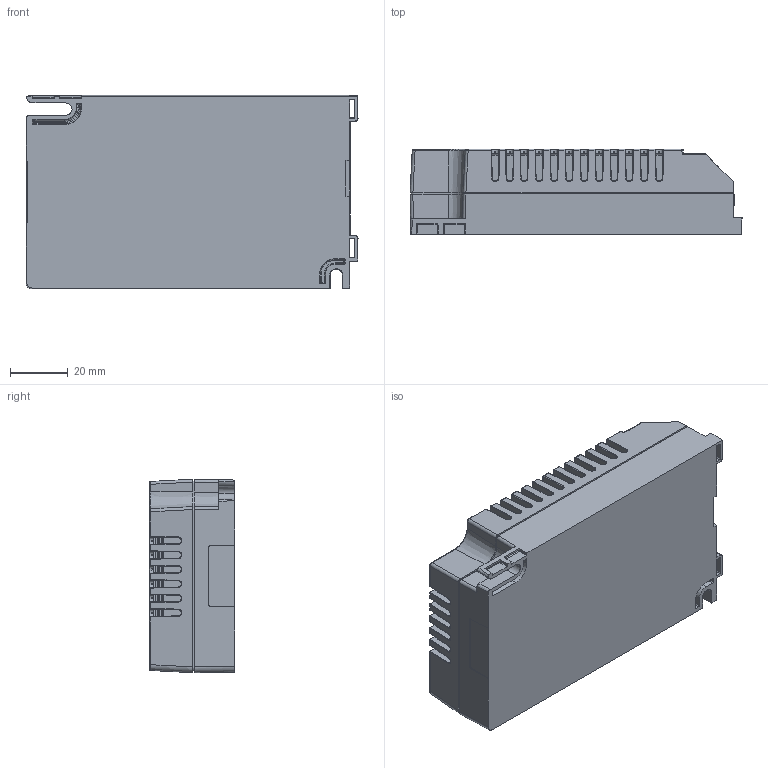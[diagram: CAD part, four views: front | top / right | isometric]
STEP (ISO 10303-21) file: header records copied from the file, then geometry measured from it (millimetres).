
FILE_DESCRIPTION (( 'STEP AP203' ), '1' );
FILE_NAME ('Assembly.STEP', '2018-04-17T05:16:42', ( '' ), ( '' ), 'SwSTEP 2.0', 'SolidWorks 2014', '' );
FILE_SCHEMA (( 'CONFIG_CONTROL_DESIGN' ));
Length unit declared in the file: millimetre
Products named in the file (8): 35-45 kp; PCB; 4n; 3n; pcb; Assembly; D007803; D007802
Assembly tree (7 placements, depth 3):
  Assembly
    35-45 kp
      D007803
      D007802
    pcb
      PCB
      4n
      3n
Bounding box: 115 x 29.5 x 67.03 mm (x, y, z)
Volume: 49953.7 mm3; surface area: 68277.6 mm2
Topology: 5 solids, 7 shells, 1911 faces, 5007 edges, 3002 vertices
Faces by surface type: cylinder 794, plane 676, bspline 328, sphere 67, cone 32, torus 14
Entity records: 66437 total; most frequent: CARTESIAN_POINT 23202, ORIENTED_EDGE 9860, DIRECTION 7863, EDGE_CURVE 4930, VERTEX_POINT 2998, LINE 2705, VECTOR 2705, AXIS2_PLACEMENT_3D 2579
